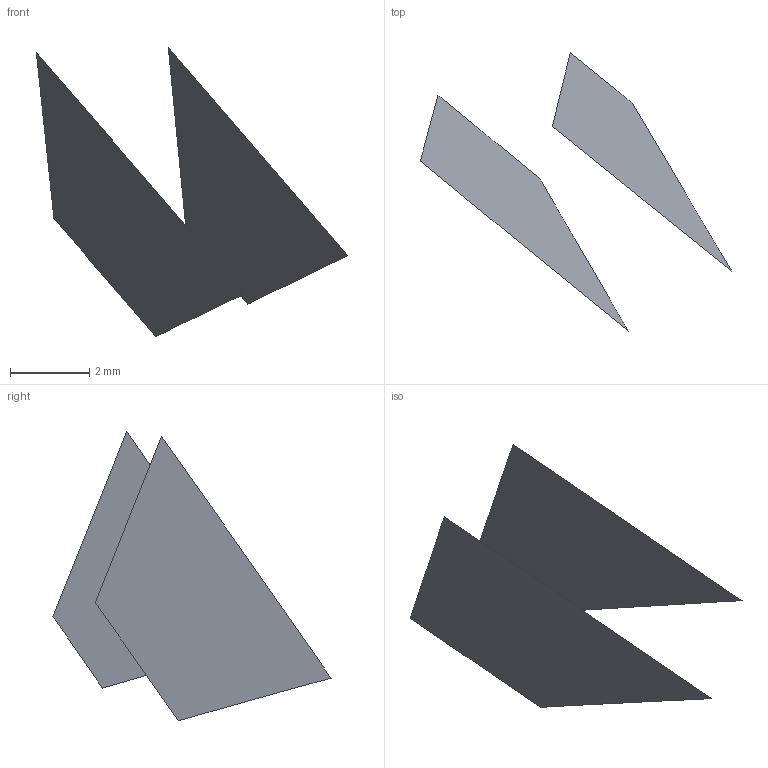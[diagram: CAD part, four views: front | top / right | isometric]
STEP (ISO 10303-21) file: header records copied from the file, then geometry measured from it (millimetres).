
FILE_DESCRIPTION(('FreeCAD Model'),'2;1');
FILE_NAME('Open CASCADE Shape Model','2022-05-22T07:50:32',('FreeCAD'),( 'FreeCAD'),'Open CASCADE STEP processor 7.5','FreeCAD','Unknown');
FILE_SCHEMA(('AUTOMOTIVE_DESIGN { 1 0 10303 214 1 1 1 1 }'));
Length unit declared in the file: millimetre
Products named in the file (3): Open CASCADE STEP translator 7.5 1; Open CASCADE STEP translator 7.5 1.1; Open CASCADE STEP translator 7.5 1.2
Assembly tree (2 placements, depth 2):
  Open CASCADE STEP translator 7.5 1
    Open CASCADE STEP translator 7.5 1.1
    Open CASCADE STEP translator 7.5 1.2
Bounding box: 7.85 x 7.01 x 7.3 mm (x, y, z)
Surface area: 49.6 mm2 (no closed solid volume)
Topology: 0 solids, 2 shells, 2 faces, 17 edges, 17 vertices
Faces by surface type: bspline 2
Entity records: 293 total; most frequent: CARTESIAN_POINT 96, B_SPLINE_CURVE_WITH_KNOTS 34, ORIENTED_EDGE 17, EDGE_CURVE 17, VERTEX_POINT 17, SURFACE_CURVE 17, PCURVE 17, DEFINITIONAL_REPRESENTATION 17
